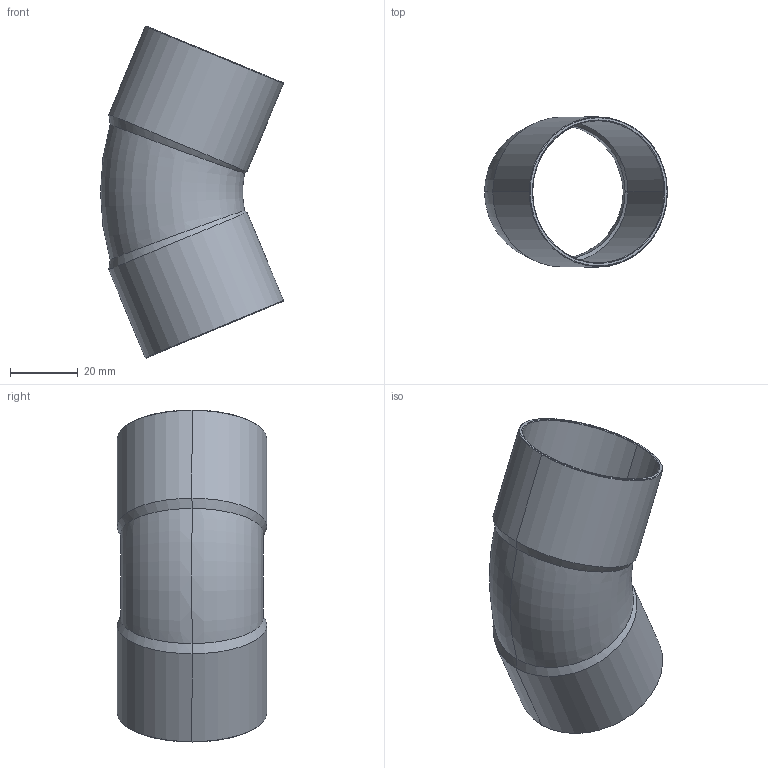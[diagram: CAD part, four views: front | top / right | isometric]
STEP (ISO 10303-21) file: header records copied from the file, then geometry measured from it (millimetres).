
FILE_DESCRIPTION((''),'2;1');
FILE_NAME('P:\Bouwmaten\z-maattekeningen 3D\5000\5040\1504142.stp','2005-10-12T15:36:13',('Kris'),(''),'Autodesk Inventor 8','Autodesk Inventor 8','');
FILE_SCHEMA(('AUTOMOTIVE_DESIGN { 1 0 10303 214 1 1 1 1 }'));
Length unit declared in the file: millimetre
Products named in the file (1): 1504142
Bounding box: 54.03 x 44.2 x 98.06 mm (x, y, z)
Volume: 12639.5 mm3; surface area: 23234.6 mm2
Topology: 1 solids, 1 shells, 30 faces, 60 edges, 32 vertices
Faces by surface type: cone 12, bspline 9, torus 4, cylinder 4, plane 1
Entity records: 1027 total; most frequent: CARTESIAN_POINT 414, DIRECTION 124, ORIENTED_EDGE 120, EDGE_CURVE 60, AXIS2_PLACEMENT_3D 50, VERTEX_POINT 32, EDGE_LOOP 32, FACE_OUTER_BOUND 30
